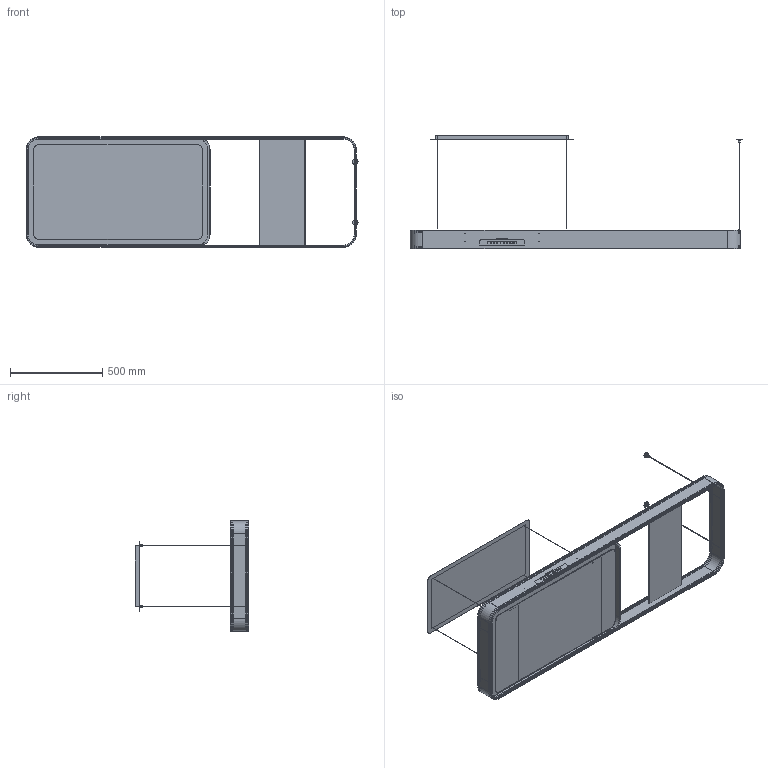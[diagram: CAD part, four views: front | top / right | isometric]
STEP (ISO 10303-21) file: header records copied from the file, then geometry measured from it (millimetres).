
FILE_DESCRIPTION(/* description */ (''),/* implementation_level */ '2;1');
FILE_NAME(/* name */ 'KSLS18X.stp',/* time_stamp */ '2026-08-05T08:32:17+02:00',/* author */ (''),/* organization */ (''),/* preprocessor_version */ 'ST-DEVELOPER v20',/* originating_system */ 'SIEMENS PLM Software NX2412.4001',/* authorisation */ '');
FILE_SCHEMA (('AUTOMOTIVE_DESIGN { 1 0 10303 214 3 1 1 1 }'));
Products named in the file (1): Assy_CAPPA 180_sparam_objects
Bounding box: 1804 x 615.9 x 600.5 mm (x, y, z)
Volume: 12953889 mm3; surface area: 7564471.2 mm2
Topology: 31 solids, 33 shells, 3016 faces, 8223 edges, 5262 vertices
Faces by surface type: plane 1904, cylinder 830, torus 224, cone 38, extrusion 20
Full cylindrical faces by diameter (mm): 1.3 x2, 1.5 x6, 2 x2, 3.2 x2, 3.3 x3, 3.5 x6, 4.5 x2, 6 x2, 7 x4, 9.5 x2, 10 x2, 12 x2, 13 x2, 30 x2
Entity records: 101243 total; most frequent: CARTESIAN_POINT 23897, ORIENTED_EDGE 16446, DIRECTION 15729, EDGE_CURVE 8223, VECTOR 6053, LINE 6033, VERTEX_POINT 5262, AXIS2_PLACEMENT_3D 4838
